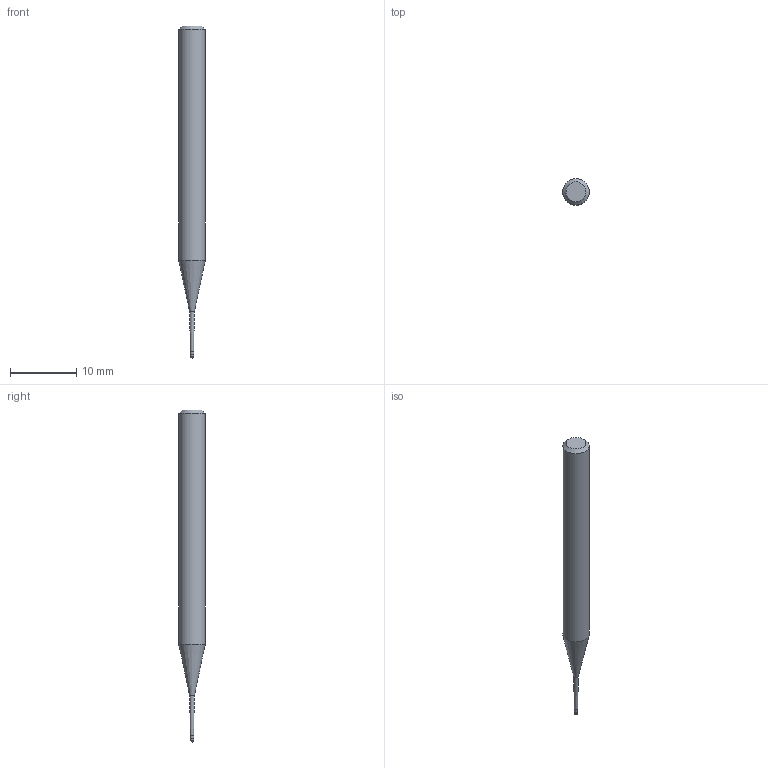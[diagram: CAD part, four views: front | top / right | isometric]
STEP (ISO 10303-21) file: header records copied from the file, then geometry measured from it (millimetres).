
FILE_DESCRIPTION((''),'2;1');
FILE_NAME('C:\Users\nsx150\AppData\Local\Temp\Mastercam 2021\SNAKH10GOD\TEMP.step','2021-10-21T13:31:13',(''),(''),'STEP Write','Mastercam 2021 ... CNC Software, Inc.','');
FILE_SCHEMA(('AUTOMOTIVE_DESIGN'));
Length unit declared in the file: millimetre
Products named in the file (1): None
Bounding box: 4 x 4 x 50 mm (x, y, z)
Volume: 482.7 mm3; surface area: 523.4 mm2
Topology: 2 solids, 2 shells, 10 faces, 16 edges, 9 vertices
Faces by surface type: plane 3, cylinder 3, cone 3, sphere 1
Full cylindrical faces by diameter (mm): 0.485 x1, 0.5 x1, 4 x1
Entity records: 232 total; most frequent: DIRECTION 40, CARTESIAN_POINT 28, AXIS2_PLACEMENT_3D 20, ORIENTED_EDGE 16, EDGE_LOOP 16, STYLED_ITEM 13, ADVANCED_FACE 10, FACE_BOUND 9
